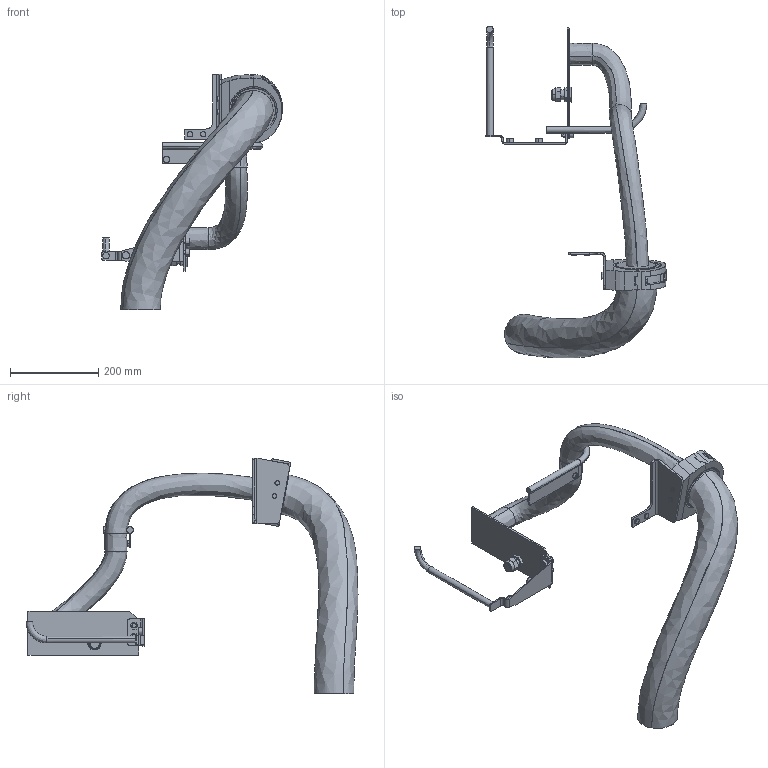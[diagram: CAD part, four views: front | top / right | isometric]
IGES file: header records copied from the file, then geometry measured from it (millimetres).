
Start section: SolidWorks IGES file using analytic representation for surfaces
Global section: file name: C:\Users\SEJAOLS6\OneDrive - ABB\Documents\SAP\7710\7710_Lightweight_models\IRB7710-LID-MH_280kg-350_OC_01_SW_J\IRB7710-LID-MH_280kg-350_OC_01_IGES_J\IRB77X0-LID-MH_All_OC_01_LINK03a_CABLE.igs; native system: SolidWorks 2024; preprocessor: SolidWorks 2024; author: SEJAOLS6; date: 260126.160018; units: millimetre
Bounding box: 409.03 x 750.96 x 533 mm (x, y, z)
Surface area: 479648.1 mm2 (no closed solid volume)
Topology: 0 solids, 0 shells, 354 faces, 5617 edges, 5617 vertices
Faces by surface type: bspline 213, revolution 141
